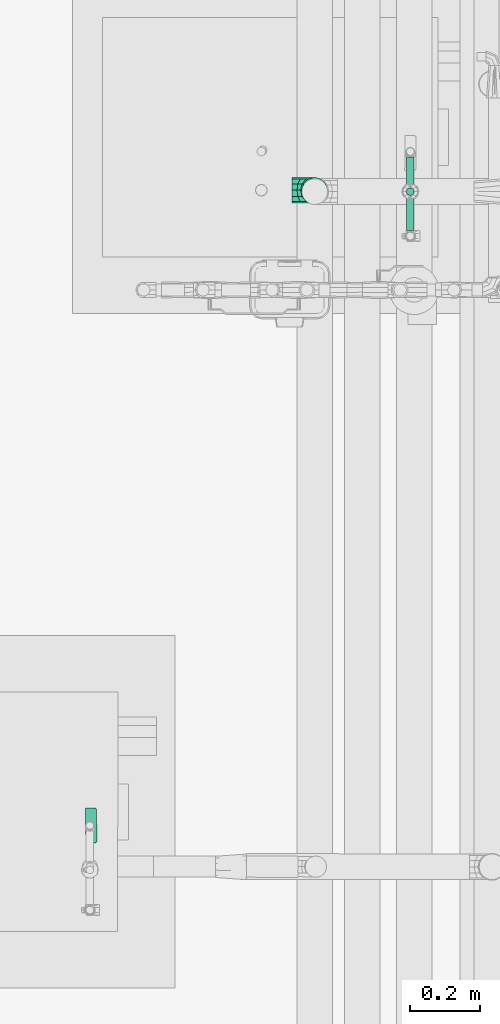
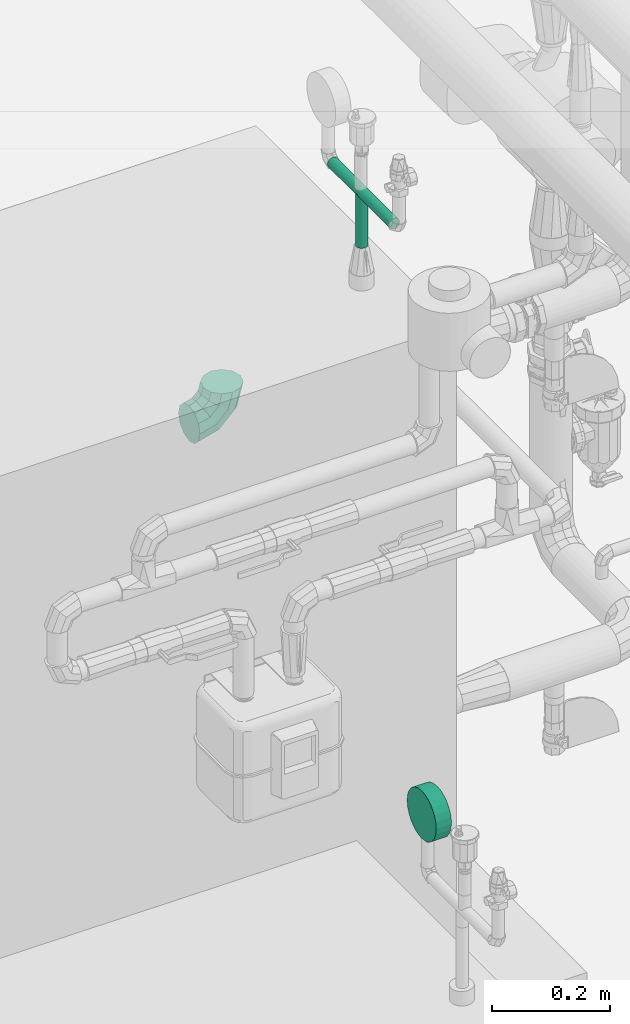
# One storey, part 14 of 43: 2 flow segments, 1 flow controller, 1 flow fitting.
"""IFC2X3 building model written with IfcOpenShell, lengths in millimetres."""

from ifc_helpers import new_model, entity, si_unit, converted_unit, derived_unit, direction, frame, frame_2d, origin, origin_2d_with_axis, place, context, subcontext, project, spatial, circle, extrude, faceted_brep, source, transform, mapped, material, material_list, type_object, type_shapes, element, save


model = new_model("IFC2X3")

# Units and contexts
model_context = context("Model", 3, precision=0.01, world=origin(), true_north=direction((6.123031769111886e-17, 1.0)))
body_context = subcontext(model_context, "Body", "Model", "MODEL_VIEW")
ifc_project = project(units=[si_unit("LENGTHUNIT", "METRE", prefix="MILLI"), si_unit("AREAUNIT", "SQUARE_METRE"), si_unit("VOLUMEUNIT", "CUBIC_METRE"), converted_unit("PLANEANGLEUNIT", "DEGREE", entity("IfcRatioMeasure", 0.017453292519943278), si_unit("PLANEANGLEUNIT", "RADIAN"), dimensions=[0, 0, 0, 0, 0, 0, 0]), si_unit("MASSUNIT", "GRAM", prefix="KILO"), derived_unit("MASSDENSITYUNIT", [(si_unit("MASSUNIT", "GRAM", prefix="KILO"), 1), (si_unit("LENGTHUNIT", "METRE"), -3)]), derived_unit("MOMENTOFINERTIAUNIT", [(si_unit("LENGTHUNIT", "METRE"), 4)]), si_unit("TIMEUNIT", "SECOND"), si_unit("FREQUENCYUNIT", "HERTZ"), si_unit("THERMODYNAMICTEMPERATUREUNIT", "DEGREE_CELSIUS"), derived_unit("THERMALTRANSMITTANCEUNIT", [(si_unit("MASSUNIT", "GRAM", prefix="KILO"), 1), (si_unit("THERMODYNAMICTEMPERATUREUNIT", "KELVIN"), -1), (si_unit("TIMEUNIT", "SECOND"), -3)]), derived_unit("VOLUMETRICFLOWRATEUNIT", [(si_unit("LENGTHUNIT", "METRE"), 3), (si_unit("TIMEUNIT", "SECOND"), -1)]), derived_unit("MASSFLOWRATEUNIT", [(si_unit("MASSUNIT", "GRAM", prefix="KILO"), 1), (si_unit("TIMEUNIT", "SECOND"), -1)]), derived_unit("ROTATIONALFREQUENCYUNIT", [(si_unit("TIMEUNIT", "SECOND"), -1)]), si_unit("ELECTRICCURRENTUNIT", "AMPERE"), si_unit("ELECTRICVOLTAGEUNIT", "VOLT"), si_unit("POWERUNIT", "WATT"), si_unit("FORCEUNIT", "NEWTON", prefix="KILO"), si_unit("ILLUMINANCEUNIT", "LUX"), si_unit("LUMINOUSFLUXUNIT", "LUMEN"), si_unit("LUMINOUSINTENSITYUNIT", "CANDELA"), derived_unit("USERDEFINED", [(si_unit("MASSUNIT", "GRAM", prefix="KILO"), -1), (si_unit("LENGTHUNIT", "METRE"), -2), (si_unit("TIMEUNIT", "SECOND"), 3), (si_unit("LUMINOUSFLUXUNIT", "LUMEN"), 1)]), derived_unit("SOUNDPOWERUNIT", [(si_unit("MASSUNIT", "GRAM", prefix="KILO"), 1), (si_unit("LENGTHUNIT", "METRE"), 2), (si_unit("TIMEUNIT", "SECOND"), -3)]), derived_unit("SOUNDPRESSUREUNIT", [(si_unit("MASSUNIT", "GRAM", prefix="KILO"), 1), (si_unit("LENGTHUNIT", "METRE"), -1), (si_unit("TIMEUNIT", "SECOND"), -2)]), derived_unit("LINEARVELOCITYUNIT", [(si_unit("LENGTHUNIT", "METRE"), 1), (si_unit("TIMEUNIT", "SECOND"), -1)]), si_unit("PRESSUREUNIT", "PASCAL"), derived_unit("USERDEFINED", [(si_unit("LENGTHUNIT", "METRE"), -2), (si_unit("MASSUNIT", "GRAM", prefix="KILO"), 1), (si_unit("TIMEUNIT", "SECOND"), -2)]), derived_unit("LINEARFORCEUNIT", [(si_unit("MASSUNIT", "GRAM", prefix="KILO"), 1), (si_unit("LENGTHUNIT", "METRE"), 1), (si_unit("TIMEUNIT", "SECOND"), -2), (si_unit("LENGTHUNIT", "METRE"), -1)]), derived_unit("PLANARFORCEUNIT", [(si_unit("MASSUNIT", "GRAM", prefix="KILO"), 1), (si_unit("LENGTHUNIT", "METRE"), 1), (si_unit("TIMEUNIT", "SECOND"), -2), (si_unit("LENGTHUNIT", "METRE"), -2)])], contexts=[model_context])

# Site, building, storey
site_placement = place(None, origin())
site = spatial("IfcSite", under=ifc_project, at=site_placement, Name="Default", CompositionType="ELEMENT")
building_placement = place(site_placement, origin())
building = spatial("IfcBuilding", under=site, at=building_placement, CompositionType="ELEMENT")
storey_placement = place(building_placement, frame((0.0, 0.0, 270.0)))
storey = spatial("IfcBuildingStorey", under=building, at=storey_placement, Name="Niveau 0", CompositionType="ELEMENT", Elevation=270.0)

# Flow segments
pipe_segment_type = type_object("IfcPipeSegmentType", Name="Canalisation:tube acier", PredefinedType="NOTDEFINED")
flow_segment_1_placement = place(storey_placement, origin())
element("IfcFlowSegment", 1, at=flow_segment_1_placement, inside=storey, type_object=pipe_segment_type, Name="Canalisation:tube acier", ObjectType="Canalisation:tube acier", context=body_context, shape_type="SweptSolid", body=[
    extrude(circle(Radius=10.668, at=frame_2d((0.0, -1.0828671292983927e-12), x_axis=(1.0, 0.0))), frame((-2232.0, -9615.0, 1581.0), z_axis=(0.0, 0.0, 1.0), x_axis=(-1.0, 0.0, 0.0)), (0.0, 0.0, 1.0), 108.99999999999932),
])
flow_segment_2_placement = place(storey_placement, origin())
element("IfcFlowSegment", 2, at=flow_segment_2_placement, inside=storey, type_object=pipe_segment_type, Name="Canalisation:tube acier", ObjectType="Canalisation:tube acier", context=body_context, shape_type="SweptSolid", body=[
    extrude(circle(Radius=10.668, at=origin_2d_with_axis()), frame((-2231.7732561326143, -9725.402942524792, 1691.672590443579), z_axis=(0.0, 1.0, 0.0), x_axis=(-1.0, 0.0, 0.0)), (0.0, 0.0, 1.0), 208.1820312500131),
])

# Flow fitting
ifc_material_1 = material(Name="<Unnamed>")
ifc_material_list_1 = material_list([ifc_material_1, ifc_material_1])
ifc_material_list_2 = material_list([ifc_material_1, ifc_material_1])
pipe_fitting_type = type_object("IfcPipeFittingType", Name="Coude - Générique:Standard", PredefinedType="NOTDEFINED", material=ifc_material_list_2)
shared_shape_1 = source(origin(), body_context, "Body", "Brep", [
    faceted_brep([(23.03555308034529, 13.749999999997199, 0.0), (18.800625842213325, 16.19503638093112, -18.250000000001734), (31.60992723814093, 64.0, -18.250000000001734), (36.50000000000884, 64.0, 0.0), (7.230589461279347, 22.874999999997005, -31.609927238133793), (18.250000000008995, 64.0, -31.609927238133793), (-8.574374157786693, 32.0, -36.50000000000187), (0.0, 64.0, -36.50000000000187), (-24.379337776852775, 41.12499999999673, -31.609927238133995), (-18.249999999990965, 64.0, -31.609927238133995), (-35.94937415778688, 47.8049636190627, -18.250000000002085), (-31.609927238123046, 64.0, -18.250000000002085), (-40.184301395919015, 50.24999999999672, 0.0), (-36.49999999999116, 64.0, 0.0), (-35.949374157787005, 47.80496361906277, 18.249999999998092), (-31.609927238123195, 64.0, 18.249999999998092), (-24.37933777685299, 41.12499999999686, 31.609927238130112), (-18.249999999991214, 64.0, 31.609927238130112), (-8.574374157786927, 32.0, 36.49999999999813), (0.0, 64.0, 36.49999999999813), (7.2305894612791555, 22.87499999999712, 31.609927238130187), (18.250000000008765, 64.0, 31.609927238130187), (18.80062584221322, 16.195036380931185, 18.24999999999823), (31.6099272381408, 64.0, 18.24999999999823), (-13.749999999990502, -23.035553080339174, 0.0), (-16.1950363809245, -18.80062584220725, -18.250000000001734), (-22.874999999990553, -7.230589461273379, -31.609927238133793), (-32.0, 8.574374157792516, -36.50000000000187), (-41.124999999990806, 24.379337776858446, -31.609927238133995), (-47.804963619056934, 35.94937415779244, -18.250000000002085), (-50.24999999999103, 40.18430139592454, 0.0), (-47.80496361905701, 35.94937415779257, 18.249999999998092), (-41.12499999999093, 24.37933777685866, 31.609927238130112), (-32.0, 8.574374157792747, 36.49999999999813), (-22.874999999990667, -7.23058946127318, 31.609927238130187), (-16.195036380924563, -18.800625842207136, 18.24999999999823), (-64.0, -36.50000000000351, 0.0), (-64.0, -31.609927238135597, -18.250000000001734), (-64.0, -18.250000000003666, -31.609927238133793), (-64.0, 0.0, -36.50000000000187), (-64.0, 18.249999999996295, -31.609927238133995), (-64.0, 31.60992723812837, -18.250000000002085), (-64.0, 36.49999999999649, 0.0), (-64.0, 31.60992723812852, 18.249999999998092), (-64.0, 18.249999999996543, 31.609927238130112), (-64.0, 0.0, 36.49999999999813), (-64.0, -18.25000000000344, 31.609927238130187), (-64.0, -31.60992723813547, 18.24999999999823)], [[[0, 1, 2, 3]], [[1, 4, 5, 2]], [[4, 6, 7, 5]], [[6, 8, 9, 7]], [[8, 10, 11, 9]], [[10, 12, 13, 11]], [[12, 14, 15, 13]], [[14, 16, 17, 15]], [[16, 18, 19, 17]], [[18, 20, 21, 19]], [[20, 22, 23, 21]], [[22, 0, 3, 23]], [[24, 25, 1, 0]], [[25, 26, 4, 1]], [[26, 27, 6, 4]], [[27, 28, 8, 6]], [[28, 29, 10, 8]], [[29, 30, 12, 10]], [[30, 31, 14, 12]], [[31, 32, 16, 14]], [[32, 33, 18, 16]], [[33, 34, 20, 18]], [[34, 35, 22, 20]], [[35, 24, 0, 22]], [[36, 37, 25, 24]], [[37, 38, 26, 25]], [[38, 39, 27, 26]], [[39, 40, 28, 27]], [[40, 41, 29, 28]], [[41, 42, 30, 29]], [[42, 43, 31, 30]], [[43, 44, 32, 31]], [[44, 45, 33, 32]], [[45, 46, 34, 33]], [[46, 47, 35, 34]], [[47, 36, 24, 35]], [[3, 2, 5, 7, 9, 11, 13, 15, 17, 19, 21, 23]], [[47, 46, 45, 44, 43, 42, 41, 40, 39, 38, 37, 36]]]),
])
type_shapes(pipe_fitting_type, [shared_shape_1])
flow_fitting_placement = place(storey_placement, frame((-2503.263180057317, -9611.0, 1326.5000000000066), z_axis=(0.0, 1.0, 0.0), x_axis=(0.0, 0.0, -1.0)))
element("IfcFlowFitting", 3, at=flow_fitting_placement, inside=storey, type_object=pipe_fitting_type, material=ifc_material_list_1, Name="Coude - Générique:Standard", ObjectType="Coude - Générique:Standard", context=body_context, shape_type="MappedRepresentation", body=[
    mapped(shared_shape_1, transform((0.0, 0.0, 0.0), scale=1.0)),
])

# Flow controller
ifc_material_2 = material(Name="Plastic-AGF-White")
ifc_material_3 = material(Name="Metal-AGF-Brass")
ifc_material_4 = material(Name="Plastic-AGF-Black")
ifc_material_list_3 = material_list([ifc_material_2, ifc_material_3, ifc_material_4])
ifc_material_list_4 = material_list([ifc_material_2, ifc_material_3, ifc_material_4])
valve_type = type_object("IfcValveType", Name="Pressure_Gauge-AGF-Model_7500:Model 7500", PredefinedType="NOTDEFINED", material=ifc_material_list_4)
shared_shape_2 = source(origin(), body_context, "Body", "Brep", [
    faceted_brep([(45.31314124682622, -19.557999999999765, 48.34609914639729), (46.91161579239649, -19.557999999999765, 60.48771874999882), (45.3131412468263, -19.557999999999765, 72.62933835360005), (40.62665100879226, -19.557999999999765, 83.94352664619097), (33.171521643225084, -19.557999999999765, 93.65924039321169), (23.45580789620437, -19.557999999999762, 101.11436975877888), (12.141619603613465, -19.557999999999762, 105.80085999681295), (0.0, -19.557999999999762, 107.39933454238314), (-12.141619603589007, -19.557999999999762, 105.80085999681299), (-23.455807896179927, -19.557999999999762, 101.11436975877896), (-33.171521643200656, -19.557999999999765, 93.65924039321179), (-40.62665100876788, -19.557999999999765, 83.94352664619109), (-45.31314124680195, -19.557999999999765, 72.62933835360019), (-46.911615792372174, -19.557999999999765, 60.48771874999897), (-45.31314124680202, -19.557999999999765, 48.346099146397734), (-40.626651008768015, -19.557999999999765, 37.03191085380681), (-33.17152164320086, -19.557999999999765, 27.316197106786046), (-23.455807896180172, -19.557999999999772, 19.861067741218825), (-12.141619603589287, -19.557999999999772, 15.174577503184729), (0.0, -19.557999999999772, 13.576102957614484), (12.141619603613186, -19.557999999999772, 15.174577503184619), (23.455807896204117, -19.557999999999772, 19.861067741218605), (33.17152164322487, -19.557999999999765, 27.316197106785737), (40.62665100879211, -19.557999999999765, 37.03191085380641), (0.0, -12.802541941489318, 107.39933454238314), (12.141619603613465, -12.802541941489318, 105.80085999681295), (23.45580789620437, -12.802541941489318, 101.11436975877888), (33.171521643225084, -12.802541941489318, 93.65924039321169), (40.62665100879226, -12.802541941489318, 83.94352664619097), (45.3131412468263, -12.80254194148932, 72.62933835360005), (46.91161579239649, -12.80254194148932, 60.48771874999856), (45.31314124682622, -12.80254194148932, 48.34609914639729), (40.62665100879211, -12.802541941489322, 37.03191085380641), (33.17152164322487, -12.802541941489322, 27.316197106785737), (23.455807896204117, -12.802541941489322, 19.861067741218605), (12.141619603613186, -12.802541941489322, 15.174577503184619), (0.0, -12.802541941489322, 13.576102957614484), (-12.141619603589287, -12.802541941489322, 15.174577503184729), (-23.455807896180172, -12.802541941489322, 19.861067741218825), (-33.17152164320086, -12.802541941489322, 27.316197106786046), (-40.626651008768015, -12.802541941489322, 37.03191085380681), (-45.31314124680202, -12.80254194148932, 48.346099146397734), (-46.911615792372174, -12.80254194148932, 60.48771874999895), (-45.31314124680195, -12.80254194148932, 72.62933835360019), (-40.62665100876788, -12.802541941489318, 83.94352664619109), (-33.171521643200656, -12.802541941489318, 93.65924039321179), (-23.455807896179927, -12.802541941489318, 101.11436975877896), (-12.141619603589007, -12.802541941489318, 105.80085999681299)], [[[0, 1, 2, 3, 4, 5, 6, 7, 8, 9, 10, 11, 12, 13, 14, 15, 16, 17, 18, 19, 20, 21, 22, 23]], [[24, 25, 26, 27, 28, 29, 30, 31, 32, 33, 34, 35, 36, 37, 38, 39, 40, 41, 42, 43, 44, 45, 46, 47]], [[41, 14, 13, 42]], [[40, 15, 14, 41]], [[17, 16, 39, 38]], [[40, 39, 16, 15]], [[18, 17, 38, 37]], [[19, 18, 37, 36]], [[35, 20, 19, 36]], [[34, 21, 20, 35]], [[23, 22, 33, 32]], [[34, 33, 22, 21]], [[0, 23, 32, 31]], [[1, 0, 31, 30]], [[29, 2, 1, 30]], [[28, 3, 2, 29]], [[5, 4, 27, 26]], [[28, 27, 4, 3]], [[6, 5, 26, 25]], [[7, 6, 25, 24]], [[47, 8, 7, 24]], [[46, 9, 8, 47]], [[11, 10, 45, 44]], [[46, 45, 10, 9]], [[12, 11, 44, 43]], [[13, 12, 43, 42]]]),
    faceted_brep([(0.0, -3.174999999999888, 17.526000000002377), (0.8217504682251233, -3.066814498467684, 17.526000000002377), (1.5875000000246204, -2.749630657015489, 17.526000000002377), (2.245064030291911, -2.2450640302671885, 17.526000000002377), (2.7496306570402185, -1.5874999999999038, 17.526000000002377), (3.0668144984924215, -0.82175046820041, 17.526000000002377), (3.1750000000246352, 0.0, 17.526000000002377), (3.066814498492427, 0.8217504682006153, 17.526000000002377), (2.749630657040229, 1.5875000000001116, 17.526000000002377), (2.245064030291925, 2.2450640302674, 17.526000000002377), (1.5875000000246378, 2.7496306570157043, 17.526000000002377), (0.8217504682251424, 3.0668144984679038, 17.526000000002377), (0.0, 3.175000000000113, 17.526000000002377), (-0.8217504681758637, 3.0668144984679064, 17.526000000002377), (-1.5874999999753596, 2.749630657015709, 17.526000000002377), (-2.245064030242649, 2.2450640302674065, 17.526000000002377), (-2.7496306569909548, 1.58750000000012, 17.526000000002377), (-3.066814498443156, 0.8217504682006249, 17.526000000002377), (-3.1749999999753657, 0.0, 17.526000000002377), (-3.06681449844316, -0.8217504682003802, 17.526000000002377), (-2.7496306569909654, -1.5874999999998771, 17.526000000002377), (-2.245064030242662, -2.245064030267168, 17.526000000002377), (-1.5874999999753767, -2.7496306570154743, 17.526000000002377), (-0.8217504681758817, -3.0668144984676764, 17.526000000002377), (0.0, 3.175000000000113, 0.0), (0.8217504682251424, 3.0668144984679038, 0.0), (1.5875000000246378, 2.7496306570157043, 0.0), (2.245064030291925, 2.2450640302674, 0.0), (2.749630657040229, 1.5875000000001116, 0.0), (3.066814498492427, 0.8217504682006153, 0.0), (3.1750000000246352, 0.0, 0.0), (3.0668144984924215, -0.82175046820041, 0.0), (2.7496306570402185, -1.5874999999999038, 0.0), (2.245064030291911, -2.2450640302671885, 0.0), (1.5875000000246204, -2.749630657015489, 0.0), (0.8217504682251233, -3.066814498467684, 0.0), (0.0, -3.174999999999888, 0.0), (-0.8217504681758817, -3.0668144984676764, 0.0), (-1.5874999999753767, -2.7496306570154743, 0.0), (-2.245064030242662, -2.245064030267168, 0.0), (-2.7496306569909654, -1.5874999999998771, 0.0), (-3.06681449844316, -0.8217504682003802, 0.0), (-3.1749999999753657, 0.0, 0.0), (-3.066814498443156, 0.8217504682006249, 0.0), (-2.7496306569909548, 1.58750000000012, 0.0), (-2.245064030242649, 2.2450640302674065, 0.0), (-1.5874999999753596, 2.749630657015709, 0.0), (-0.8217504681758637, 3.0668144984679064, 0.0)], [[[0, 1, 2, 3, 4, 5, 6, 7, 8, 9, 10, 11, 12, 13, 14, 15, 16, 17, 18, 19, 20, 21, 22, 23]], [[24, 25, 26, 27, 28, 29, 30, 31, 32, 33, 34, 35, 36, 37, 38, 39, 40, 41, 42, 43, 44, 45, 46, 47]], [[41, 19, 18, 42]], [[40, 20, 19, 41]], [[22, 21, 39, 38]], [[40, 39, 21, 20]], [[23, 22, 38, 37]], [[0, 23, 37, 36]], [[35, 1, 0, 36]], [[34, 2, 1, 35]], [[4, 3, 33, 32]], [[34, 33, 3, 2]], [[5, 4, 32, 31]], [[6, 5, 31, 30]], [[29, 7, 6, 30]], [[28, 8, 7, 29]], [[10, 9, 27, 26]], [[28, 27, 9, 8]], [[11, 10, 26, 25]], [[12, 11, 25, 24]], [[47, 13, 12, 24]], [[46, 14, 13, 47]], [[16, 15, 45, 44]], [[46, 45, 15, 14]], [[17, 16, 44, 43]], [[18, 17, 43, 42]]]),
    faceted_brep([(42.67426779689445, -17.735789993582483, 85.12571874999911), (34.84339374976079, -17.7357899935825, 95.33111249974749), (40.626651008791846, -17.73578999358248, 83.94352664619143), (45.31314124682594, -17.735789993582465, 72.62933835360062), (47.59696101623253, -17.735789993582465, 73.24128601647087), (33.171521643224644, -17.735789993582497, 93.65924039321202), (24.638000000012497, -17.73578999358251, 103.16198654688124), (23.455807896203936, -17.735789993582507, 101.11436975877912), (12.141619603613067, -17.735789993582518, 105.80085999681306), (12.753567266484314, -17.73578999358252, 108.08467976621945), (0.0, -17.735789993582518, 107.39933454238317), (0.0, -17.73578999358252, 109.76371874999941), (-12.141619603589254, -17.735789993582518, 105.80085999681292), (-12.753567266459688, -17.73578999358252, 108.08467976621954), (-23.45580789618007, -17.735789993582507, 101.11436975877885), (-24.637999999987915, -17.73578999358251, 103.16198654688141), (-33.1715216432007, -17.735789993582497, 93.65924039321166), (-34.843393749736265, -17.7357899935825, 95.3311124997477), (-40.62665100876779, -17.73578999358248, 83.94352664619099), (-42.67426779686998, -17.735789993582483, 85.12571874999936), (-45.31314124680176, -17.735789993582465, 72.62933835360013), (-47.596961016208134, -17.735789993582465, 73.24128601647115), (-46.9116157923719, -17.735789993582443, 60.48771874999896), (-49.275999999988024, -17.735789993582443, 60.4877187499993), (-45.31314124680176, -17.735789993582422, 48.3460991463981), (-47.596961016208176, -17.735789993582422, 47.73415148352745), (-40.62665100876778, -17.735789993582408, 37.031910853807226), (-42.674267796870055, -17.735789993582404, 35.849718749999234), (-33.17152164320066, -17.73578999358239, 27.316197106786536), (-34.843393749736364, -17.735789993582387, 25.644325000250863), (-23.45580789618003, -17.735789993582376, 19.86106774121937), (-24.637999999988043, -17.735789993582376, 17.81345095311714), (-12.753567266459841, -17.735789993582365, 12.890757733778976), (-12.141619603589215, -17.73578999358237, 15.174577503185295), (0.0, -17.735789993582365, 11.211718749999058), (0.0, -17.73578999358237, 13.576102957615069), (12.753567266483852, -17.735789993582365, 12.890757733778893), (12.141619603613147, -17.73578999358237, 15.174577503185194), (24.638000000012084, -17.735789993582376, 17.813450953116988), (23.455807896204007, -17.735789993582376, 19.861067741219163), (34.84339374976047, -17.735789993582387, 25.64432500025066), (33.1715216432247, -17.73578999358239, 27.316197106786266), (42.67426779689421, -17.735789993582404, 35.84971874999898), (40.62665100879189, -17.735789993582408, 37.03191085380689), (47.59696101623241, -17.735789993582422, 47.734151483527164), (45.31314124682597, -17.735789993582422, 48.346099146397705), (49.27600000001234, -17.735789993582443, 60.487718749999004), (46.91161579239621, -17.735789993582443, 60.487718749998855), (-49.275999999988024, 11.728210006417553, 60.48771874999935), (-47.596961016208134, 11.728210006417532, 73.24128601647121), (-42.67426779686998, 11.728210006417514, 85.12571874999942), (-34.843393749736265, 11.728210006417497, 95.33111249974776), (-24.637999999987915, 11.728210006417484, 103.16198654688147), (-12.753567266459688, 11.728210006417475, 108.0846797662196), (0.0, 11.728210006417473, 109.76371874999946), (12.753567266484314, 11.728210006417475, 108.08467976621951), (24.638000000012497, 11.728210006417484, 103.1619865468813), (34.84339374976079, 11.728210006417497, 95.33111249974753), (42.67426779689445, 11.728210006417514, 85.12571874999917), (47.59696101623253, 11.728210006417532, 73.24128601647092), (49.27600000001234, 11.728210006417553, 60.487718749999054), (47.59696101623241, 11.728210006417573, 47.734151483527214), (42.67426779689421, 11.728210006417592, 35.84971874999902), (34.84339374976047, 11.728210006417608, 25.64432500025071), (24.638000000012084, 11.728210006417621, 17.81345095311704), (12.753567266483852, 11.72821000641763, 12.890757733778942), (0.0, 11.728210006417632, 11.21171874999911), (-12.753567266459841, 11.72821000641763, 12.89075773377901), (-24.637999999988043, 11.728210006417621, 17.81345095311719), (-34.843393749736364, 11.728210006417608, 25.644325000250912), (-42.674267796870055, 11.728210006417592, 35.849718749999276), (-47.596961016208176, 11.728210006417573, 47.7341514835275), (23.455807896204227, -3.86493611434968, 101.11436975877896), (12.141619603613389, -3.86493611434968, 105.800859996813), (0.0, -3.86493611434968, 107.3993345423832), (-12.14161960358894, -3.86493611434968, 105.80085999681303), (-23.455807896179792, -3.86493611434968, 101.11436975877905), (-33.171521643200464, -3.8649361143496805, 93.65924039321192), (-40.62665100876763, -3.864936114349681, 83.94352664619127), (-45.313141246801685, -3.8649361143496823, 72.62933835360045), (-46.9116157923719, -3.8649361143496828, 60.487718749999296), (-45.313141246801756, -3.864936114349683, 48.34609914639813), (-40.62665100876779, -3.864936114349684, 37.03191085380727), (-33.17152164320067, -3.8649361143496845, 27.31619710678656), (-23.455807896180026, -3.8649361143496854, 19.861067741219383), (-12.141619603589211, -3.8649361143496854, 15.174577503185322), (0.0, -3.8649361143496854, 13.576102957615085), (12.14161960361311, -3.8649361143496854, 15.174577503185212), (23.45580789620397, -3.8649361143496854, 19.861067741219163), (33.17152164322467, -3.8649361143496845, 27.31619710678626), (40.62665100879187, -3.864936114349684, 37.03191085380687), (45.31314124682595, -3.864936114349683, 48.34609914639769), (46.91161579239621, -3.8649361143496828, 60.48771874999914), (45.313141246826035, -3.8649361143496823, 72.6293383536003), (40.626651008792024, -3.864936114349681, 83.94352664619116), (33.17152164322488, -3.8649361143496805, 93.65924039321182)], [[[0, 1, 2]], [[0, 2, 3]], [[3, 4, 0]], [[2, 1, 5]], [[6, 5, 1]], [[5, 6, 7]], [[7, 6, 8]], [[9, 8, 6]], [[9, 10, 8]], [[10, 9, 11]], [[12, 10, 11]], [[11, 13, 12]], [[12, 13, 14]], [[15, 14, 13]], [[14, 15, 16]], [[16, 15, 17]], [[18, 16, 17]], [[17, 19, 18]], [[18, 19, 20]], [[21, 20, 19]], [[20, 21, 22]], [[22, 21, 23]], [[22, 23, 24]], [[24, 23, 25]], [[24, 25, 26]], [[27, 26, 25]], [[28, 26, 27]], [[28, 27, 29]], [[29, 30, 28]], [[31, 30, 29]], [[30, 31, 32]], [[32, 33, 30]], [[34, 33, 32]], [[34, 35, 33]], [[36, 35, 34]], [[36, 37, 35]], [[37, 36, 38]], [[38, 39, 37]], [[39, 38, 40]], [[39, 40, 41]], [[40, 42, 41]], [[43, 41, 42]], [[43, 42, 44]], [[44, 45, 43]], [[46, 45, 44]], [[4, 47, 46]], [[46, 47, 45]], [[4, 3, 47]], [[48, 49, 50, 51, 52, 53, 54, 55, 56, 57, 58, 59, 60, 61, 62, 63, 64, 65, 66, 67, 68, 69, 70, 71]], [[65, 36, 34, 66]], [[64, 38, 36, 65]], [[42, 40, 63, 62]], [[64, 63, 40, 38]], [[44, 42, 62, 61]], [[46, 44, 61, 60]], [[59, 4, 46, 60]], [[58, 0, 4, 59]], [[6, 1, 57, 56]], [[58, 57, 1, 0]], [[9, 6, 56, 55]], [[11, 9, 55, 54]], [[53, 13, 11, 54]], [[52, 15, 13, 53]], [[19, 17, 51, 50]], [[52, 51, 17, 15]], [[21, 19, 50, 49]], [[23, 21, 49, 48]], [[25, 23, 48, 71]], [[27, 25, 71, 70]], [[31, 68, 67, 32]], [[66, 34, 32, 67]], [[27, 70, 69, 29]], [[69, 68, 31, 29]], [[72, 73, 74, 75, 76, 77, 78, 79, 80, 81, 82, 83, 84, 85, 86, 87, 88, 89, 90, 91, 92, 93, 94, 95]], [[80, 22, 24, 81]], [[81, 24, 26, 82]], [[84, 83, 28, 30]], [[28, 83, 82, 26]], [[85, 84, 30, 33]], [[85, 33, 35, 86]], [[86, 35, 37, 87]], [[87, 37, 39, 88]], [[90, 89, 41, 43]], [[41, 89, 88, 39]], [[91, 90, 43, 45]], [[91, 45, 47, 92]], [[92, 47, 3, 93]], [[93, 3, 2, 94]], [[72, 95, 5, 7]], [[5, 95, 94, 2]], [[73, 72, 7, 8]], [[73, 8, 10, 74]], [[74, 10, 12, 75]], [[75, 12, 14, 76]], [[78, 77, 16, 18]], [[16, 77, 76, 14]], [[79, 78, 18, 20]], [[79, 20, 22, 80]]]),
])
type_shapes(valve_type, [shared_shape_2])
flow_controller_placement = place(storey_placement, frame((-3141.4359306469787, -11414.068073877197, 1754.8618540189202), z_axis=(0.0, 0.0, 1.0), x_axis=(-0.0023098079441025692, 0.9999973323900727, 0.0)))
element("IfcFlowController", 4, at=flow_controller_placement, inside=storey, type_object=valve_type, material=ifc_material_list_3, Name="Pressure_Gauge-AGF-Model_7500:Model 7500", ObjectType="Pressure_Gauge-AGF-Model_7500:Model 7500", context=body_context, shape_type="MappedRepresentation", body=[
    mapped(shared_shape_2, transform((0.0, 0.0, 0.0), scale=1.0)),
])

save(model, "model.ifc")
